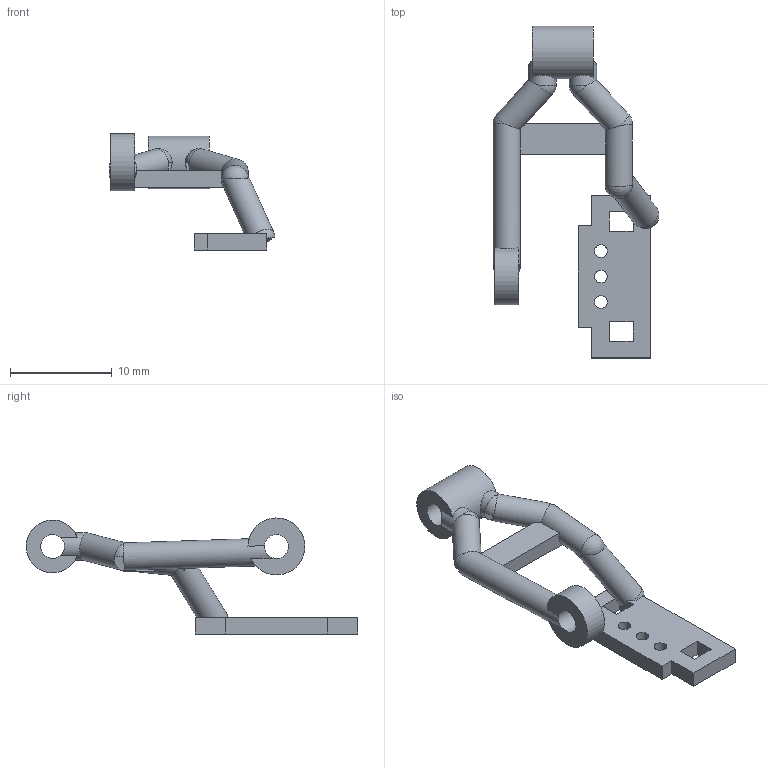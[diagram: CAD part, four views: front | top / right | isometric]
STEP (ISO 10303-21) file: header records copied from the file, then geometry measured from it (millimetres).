
FILE_DESCRIPTION(('Open CASCADE Model'),'2;1');
FILE_NAME('Open CASCADE Shape Model','2026-10-16T20:10:44',('Author'),( 'Open CASCADE'),'Open CASCADE STEP processor 7.9','Open CASCADE 7.9' ,'Unknown');
FILE_SCHEMA(('AUTOMOTIVE_DESIGN { 1 0 10303 214 1 1 1 1 }'));
Length unit declared in the file: millimetre
Products named in the file (1): Open CASCADE STEP translator 7.9 18
Bounding box: 16.3 x 32.6 x 11.4 mm (x, y, z)
Volume: 551.6 mm3; surface area: 960.4 mm2
Topology: 1 solids, 1 shells, 69 faces, 205 edges, 130 vertices
Faces by surface type: plane 48, cylinder 14, sphere 7
Full cylindrical faces by diameter (mm): 1.25 x3, 2.35 x2, 2.7 x7, 5.2 x1
Entity records: 7472 total; most frequent: CARTESIAN_POINT 3674, DIRECTION 673, ORIENTED_EDGE 406, PCURVE 406, DEFINITIONAL_REPRESENTATION 406, LINE 358, VECTOR 358, EDGE_CURVE 203
